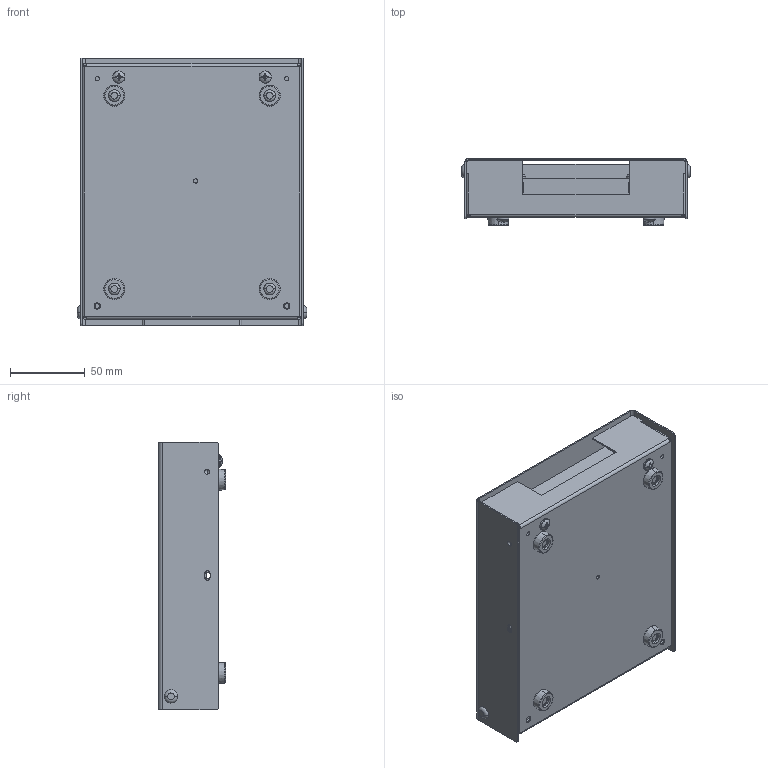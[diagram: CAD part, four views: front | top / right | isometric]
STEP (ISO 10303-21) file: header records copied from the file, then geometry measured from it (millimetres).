
FILE_DESCRIPTION((''),'2;1');
FILE_NAME('CU_SCB_100','2008-03-06T',('chrisj'),(''),'PRO/ENGINEER BY PARAMETRIC TECHNOLOGY CORPORATION, 2006300','PRO/ENGINEER BY PARAMETRIC TECHNOLOGY CORPORATION, 2006300','');
FILE_SCHEMA(('AUTOMOTIVE_DESIGN_CC2 { 1 2 10303 214 -1 1 5 2 }'));
Length unit declared in the file: inch
Products named in the file (1): CU_SCB_100
Bounding box: 153.57 x 44.96 x 179.49 mm (x, y, z)
Volume: 132723.5 mm3; surface area: 213986.1 mm2
Topology: 1 solids, 2 shells, 789 faces, 1966 edges, 1114 vertices
Faces by surface type: plane 337, cylinder 212, bspline 136, torus 40, sphere 36, cone 28
Entity records: 25803 total; most frequent: CARTESIAN_POINT 7953, ORIENTED_EDGE 3652, DIRECTION 3626, EDGE_CURVE 1826, AXIS2_PLACEMENT_3D 1379, VERTEX_POINT 1228, EDGE_LOOP 906, VECTOR 868
